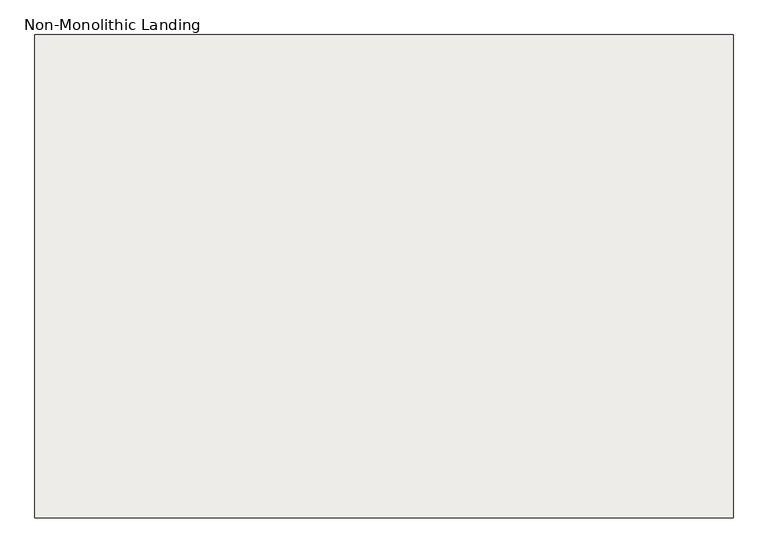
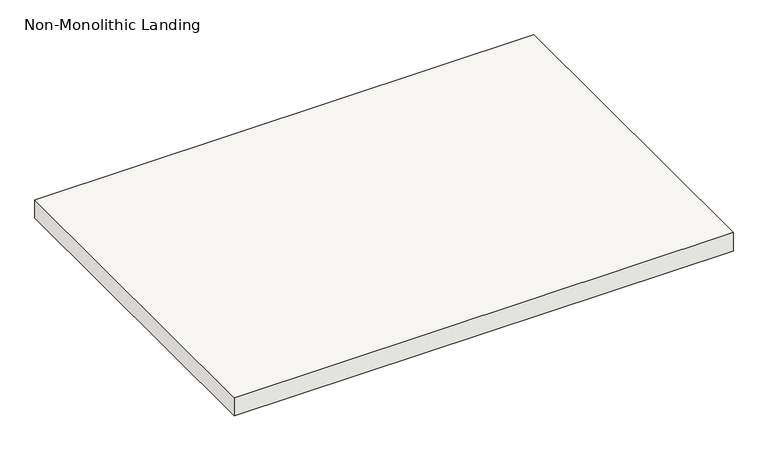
"""IFC4 building model written with IfcOpenShell, lengths in millimetres: slab geometry, Non-Monolithic Landing."""

from ifc_helpers import new_model, si_unit, frame, origin, place, context, project, spatial, polyline, outline, extrude, source, transform, mapped, element, save


def non_monolithic_landing_3c6b9b6c(model_context):
    return source(origin(), model_context, "Body", "SweptSolid", [
        extrude(outline(polyline([(32923.1991768, 44245.3361774), (34243.9991768, 44245.3361774), (34243.9991768, 43330.9361774), (32923.1991768, 43330.9361774), (32923.1991768, 44245.3361774)])), frame((0.0, 0.0, 2126.3428571), z_axis=(0.0, 0.0, 1.0), x_axis=(1.0, 0.0, 0.0)), (0.0, 0.0, 1.0), 50.8),
    ])


if __name__ == "__main__":
    model = new_model("IFC4")
    model_context = context("Model", 3, world=origin())
    ifc_project = project(units=[si_unit("LENGTHUNIT", "METRE", prefix="MILLI")], contexts=[model_context])
    site = spatial("IfcSite", under=ifc_project)
    building = spatial("IfcBuilding", under=site)
    placement = place(None, origin())
    non_monolithic_landing_shape = non_monolithic_landing_3c6b9b6c(model_context)
    element("IfcSlab", 1, ObjectType="Non-Monolithic Landing", at=placement, inside=building, context=model_context, shape_type="MappedRepresentation", body=[
        mapped(non_monolithic_landing_shape, transform((0.0, 0.0, 0.0), x_axis=(1.0, 0.0, 0.0), y_axis=(0.0, 1.0, 0.0), z_axis=(0.0, 0.0, 1.0))),
    ])
    save(model, "model.ifc")
